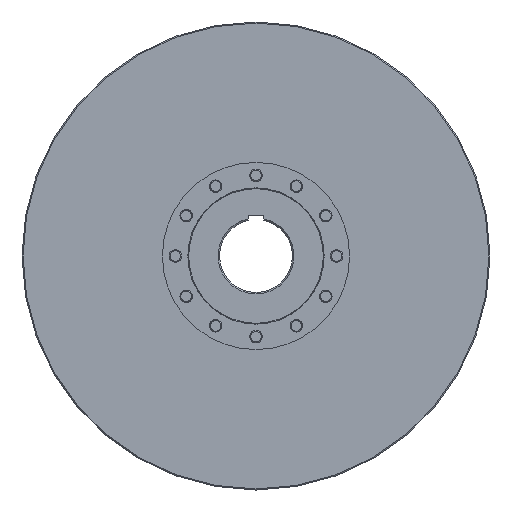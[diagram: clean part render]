
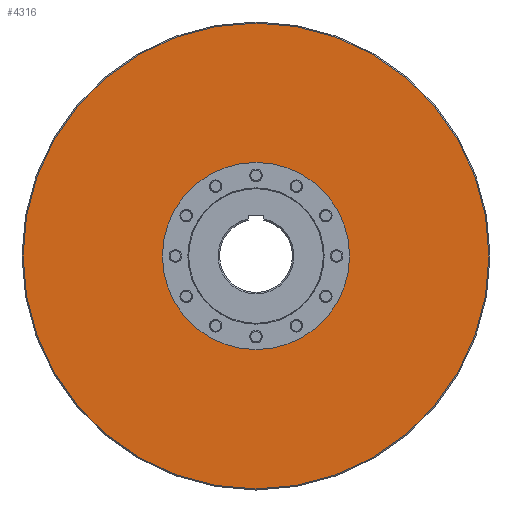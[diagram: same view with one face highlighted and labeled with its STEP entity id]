
A CAD part, left-side view. The second image highlights one B-rep face of the part: STEP entity #4316.
In plain terms, the highlighted planar face has unit normal (-1, 0, 0).
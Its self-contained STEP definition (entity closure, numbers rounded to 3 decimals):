
#612=FACE_BOUND('',#1175,.T.);
#847=FACE_OUTER_BOUND('',#1174,.T.);
#1174=EDGE_LOOP('',(#2848));
#1175=EDGE_LOOP('',(#2849));
#1736=CIRCLE('',#4661,448.);
#1737=CIRCLE('',#4662,180.);
#1968=VERTEX_POINT('',#6513);
#1969=VERTEX_POINT('',#6515);
#2362=EDGE_CURVE('',#1968,#1968,#1736,.T.);
#2363=EDGE_CURVE('',#1969,#1969,#1737,.T.);
#2848=ORIENTED_EDGE('',*,*,#2362,.F.);
#2849=ORIENTED_EDGE('',*,*,#2363,.F.);
#3820=PLANE('',#4660);
#4316=ADVANCED_FACE('',(#847,#612),#3820,.F.);
#4660=AXIS2_PLACEMENT_3D('',#6512,#5221,#5222);
#4661=AXIS2_PLACEMENT_3D('',#6514,#5223,#5224);
#4662=AXIS2_PLACEMENT_3D('',#6516,#5225,#5226);
#5221=DIRECTION('center_axis',(1.,0.,0.));
#5222=DIRECTION('ref_axis',(0.,1.,0.));
#5223=DIRECTION('center_axis',(1.,0.,0.));
#5224=DIRECTION('ref_axis',(0.,-1.,0.));
#5225=DIRECTION('center_axis',(-1.,0.,0.));
#5226=DIRECTION('ref_axis',(0.,-1.,0.));
#6512=CARTESIAN_POINT('Origin',(-123.75,640.121,0.));
#6513=CARTESIAN_POINT('',(-123.75,448.,0.));
#6514=CARTESIAN_POINT('Origin',(-123.75,0.,0.));
#6515=CARTESIAN_POINT('',(-123.75,180.,0.));
#6516=CARTESIAN_POINT('Origin',(-123.75,0.,0.));
